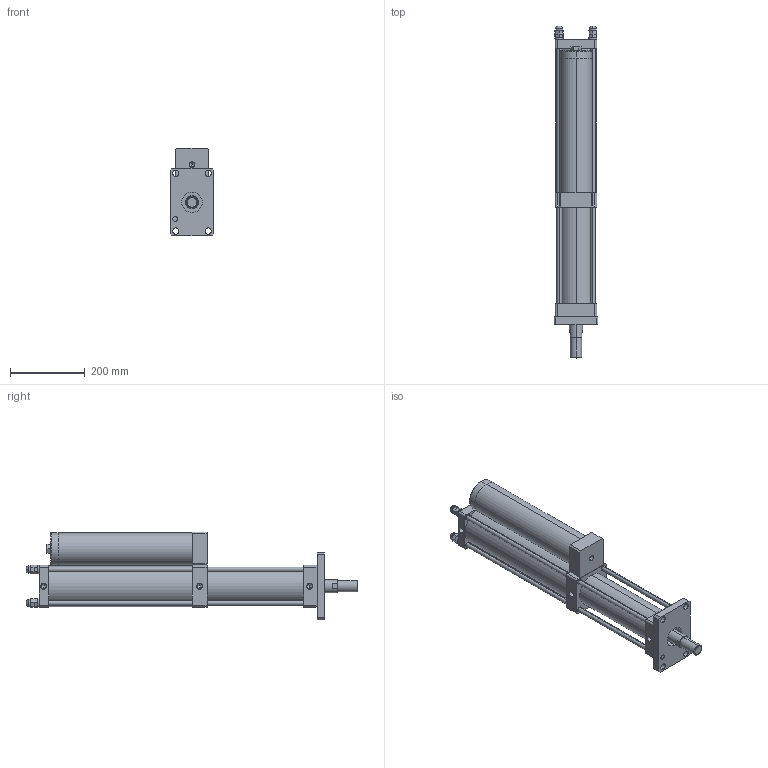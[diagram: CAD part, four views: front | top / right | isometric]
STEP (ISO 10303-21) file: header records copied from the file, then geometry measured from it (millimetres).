
FILE_DESCRIPTION (( 'STEP AP203' ), '1' );
FILE_NAME ('CPT-80-200-20-8T.STEP', '2016-03-11T03:16:28', ( 'WIN' ), ( '' ), 'SwSTEP 2.0', 'SolidWorks 2014', '' );
FILE_SCHEMA (( 'CONFIG_CONTROL_DESIGN' ));
Length unit declared in the file: millimetre
Products named in the file (1): CPT-80-200-20-8T
Bounding box: 118 x 891.07 x 235 mm (x, y, z)
Volume: 7963618.2 mm3; surface area: 808536.4 mm2
Topology: 17 solids, 17 shells, 389 faces, 959 edges, 560 vertices
Faces by surface type: plane 181, cylinder 90, bspline 48, torus 46, cone 24
Entity records: 12577 total; most frequent: CARTESIAN_POINT 3667, DIRECTION 1874, ORIENTED_EDGE 1786, EDGE_CURVE 893, AXIS2_PLACEMENT_3D 687, VERTEX_POINT 560, VECTOR 500, LINE 500
